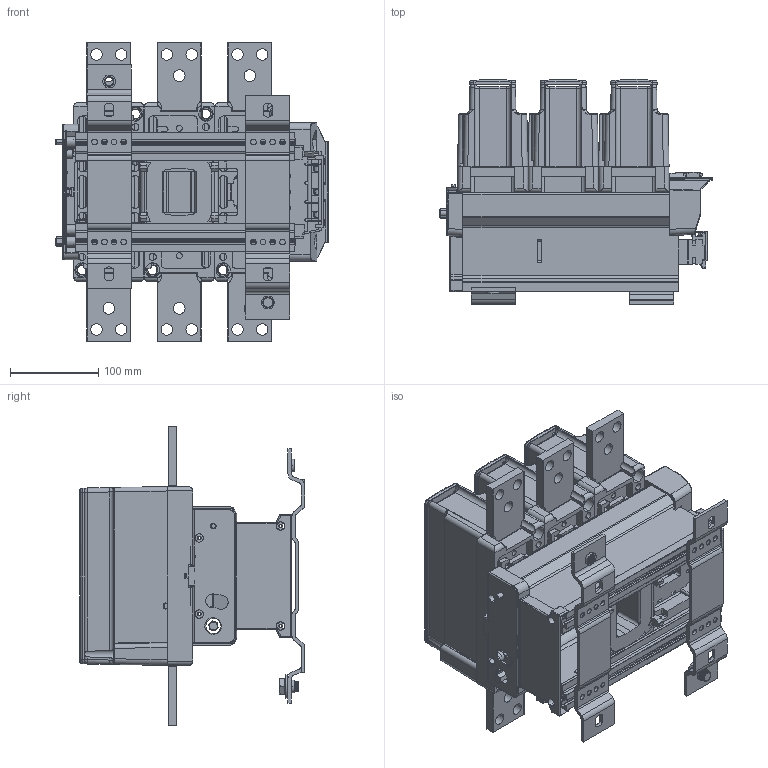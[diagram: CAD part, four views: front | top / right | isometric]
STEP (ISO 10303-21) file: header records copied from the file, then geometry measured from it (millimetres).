
FILE_DESCRIPTION (( 'STEP AP203' ), '1' );
FILE_NAME ('NDC1-1250 3DÄ£ÐÍ£¨2020.07£©.STEP', '2020-08-03T03:46:41', ( '' ), ( '' ), 'SwSTEP 2.0', 'SolidWorks 2018', '' );
FILE_SCHEMA (( 'CONFIG_CONTROL_DESIGN' ));
Products named in the file (1): NDC1-1250 3D模型（2020.07）
Bounding box: 309.2 x 255.6 x 337.9 mm (x, y, z)
Surface area: 869607.2 mm2 (no closed solid volume)
Topology: 0 solids, 76 shells, 2113 faces, 10244 edges, 7955 vertices
Faces by surface type: plane 1086, cylinder 812, bspline 100, torus 56, cone 51, sphere 8
Entity records: 130212 total; most frequent: CARTESIAN_POINT 55325, ORIENTED_EDGE 15085, DIRECTION 12962, EDGE_CURVE 10237, VERTEX_POINT 7954, LINE 6086, VECTOR 6086, AXIS2_PLACEMENT_3D 3438
